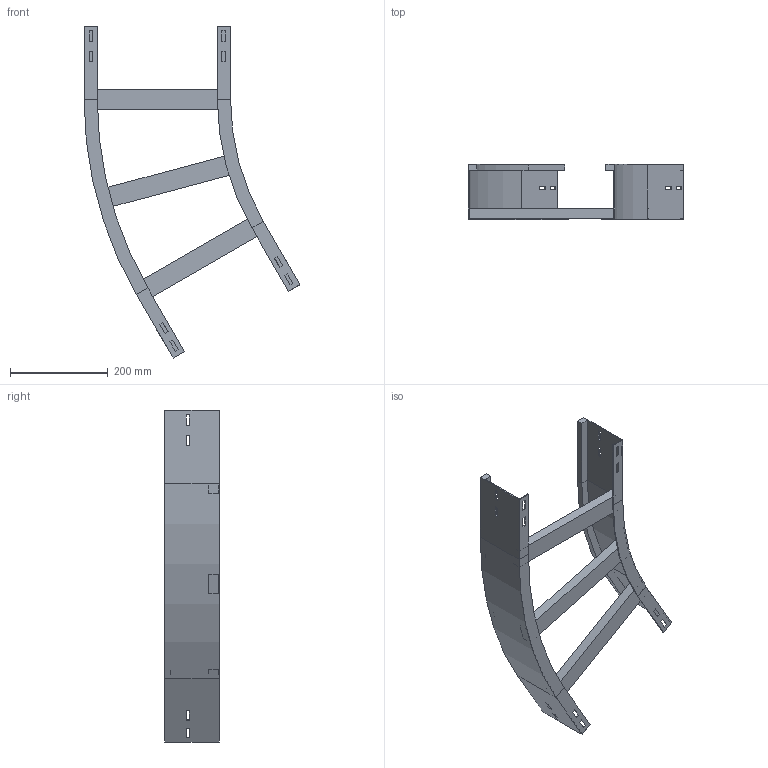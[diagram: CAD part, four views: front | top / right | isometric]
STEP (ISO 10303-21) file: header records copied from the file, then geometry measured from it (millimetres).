
FILE_DESCRIPTION (( 'STEP AP214' ), '1' );
FILE_NAME ('12B5J300.step', '2025-02-21T15:08:18', ( '' ), ( '' ), 'SwSTEP 2.0', 'SolidWorks 2023', '' );
FILE_SCHEMA (( 'AUTOMOTIVE_DESIGN' ));
Length unit declared in the file: millimetre
Products named in the file (4): 12B5J300; A2_LONGH.INTERNO 30°_H112.5_R500; A2_LONGH.ESTERNO 30°_H112.5_R500+300; TRAVERSINO_300
Assembly tree (5 placements, depth 2):
  12B5J300
    A2_LONGH.INTERNO 30°_H112.5_R500
    A2_LONGH.ESTERNO 30°_H112.5_R500+300
    TRAVERSINO_300  x3
Bounding box: 441.99 x 112.5 x 679.9 mm (x, y, z)
Volume: 1312428.8 mm3; surface area: 509395 mm2
Topology: 5 solids, 5 shells, 134 faces, 340 edges, 216 vertices
Faces by surface type: plane 126, cylinder 8
Entity records: 3821 total; most frequent: CARTESIAN_POINT 646, ORIENTED_EDGE 632, DIRECTION 592, EDGE_CURVE 316, VECTOR 300, LINE 300, VERTEX_POINT 200, EDGE_LOOP 154
